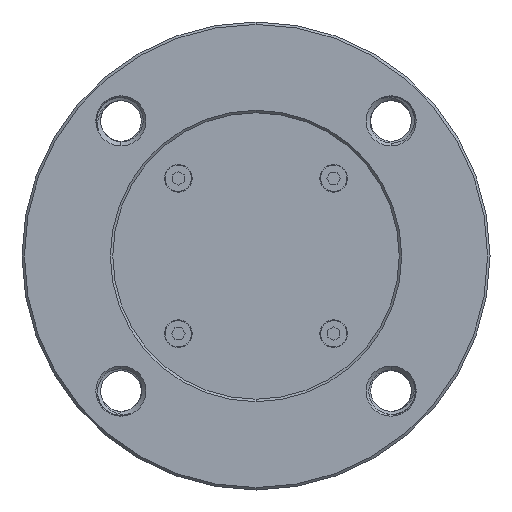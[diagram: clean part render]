
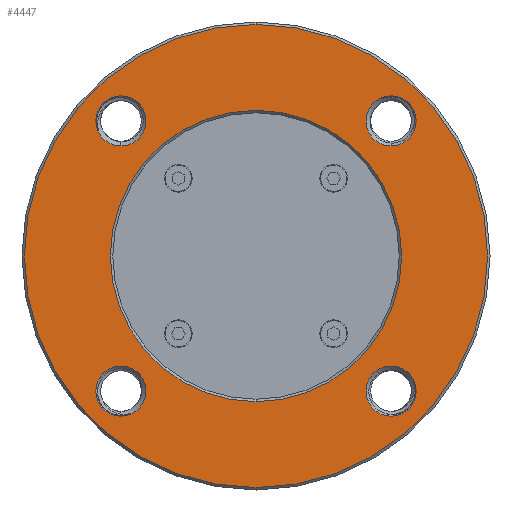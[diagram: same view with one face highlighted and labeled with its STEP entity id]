
A CAD part, front view. The second image highlights one B-rep face of the part: STEP entity #4447.
In plain terms, the highlighted planar face has unit normal (0, -1, 0).
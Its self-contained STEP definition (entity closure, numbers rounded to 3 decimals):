
#73 = ORIENTED_EDGE ( 'NONE', *, *, #14101, .T. ) ;
#188 = DIRECTION ( 'NONE',  ( 0., 0., -1. ) ) ;
#210 = DIRECTION ( 'NONE',  ( 0., 0., -1. ) ) ;
#377 = CARTESIAN_POINT ( 'NONE',  ( -28.284, -32.5, 33.534 ) ) ;
#543 = VERTEX_POINT ( 'NONE', #13524 ) ;
#654 = EDGE_CURVE ( 'NONE', #8398, #19177, #7322, .T. ) ;
#1477 = EDGE_CURVE ( 'NONE', #25645, #14300, #5723, .T. ) ;
#2263 = CARTESIAN_POINT ( 'NONE',  ( 0., -32.5, -48.5 ) ) ;
#2599 = CARTESIAN_POINT ( 'NONE',  ( 28.284, -32.5, 28.284 ) ) ;
#2646 = DIRECTION ( 'NONE',  ( 0., 0., -1. ) ) ;
#2829 = CARTESIAN_POINT ( 'NONE',  ( 0., -32.5, 0. ) ) ;
#3161 = CARTESIAN_POINT ( 'NONE',  ( 0., -32.5, 0. ) ) ;
#3213 = AXIS2_PLACEMENT_3D ( 'NONE', #19498, #17171, #10626 ) ;
#3522 = DIRECTION ( 'NONE',  ( 0., 1., 0. ) ) ;
#3741 = DIRECTION ( 'NONE',  ( 0., 1., 0. ) ) ;
#4319 = AXIS2_PLACEMENT_3D ( 'NONE', #2829, #20132, #210 ) ;
#4329 = DIRECTION ( 'NONE',  ( 0., 1., 0. ) ) ;
#4338 = CARTESIAN_POINT ( 'NONE',  ( 0., -32.5, 0. ) ) ;
#4397 = CIRCLE ( 'NONE', #20641, 5.25 ) ;
#4416 = AXIS2_PLACEMENT_3D ( 'NONE', #8313, #3522, #26192 ) ;
#4447 = ADVANCED_FACE ( 'NONE', ( #21533, #10479, #26464, #26175, #11051, #28648 ), #26600, .T. ) ;
#4558 = AXIS2_PLACEMENT_3D ( 'NONE', #3161, #3741, #10271 ) ;
#4732 = VERTEX_POINT ( 'NONE', #13930 ) ;
#4906 = CIRCLE ( 'NONE', #24884, 5.25 ) ;
#4934 = EDGE_CURVE ( 'NONE', #19177, #8398, #18264, .T. ) ;
#5486 = CARTESIAN_POINT ( 'NONE',  ( -28.284, -32.5, 28.284 ) ) ;
#5723 = CIRCLE ( 'NONE', #18266, 5.25 ) ;
#6225 = CARTESIAN_POINT ( 'NONE',  ( 0., -32.5, 30.5 ) ) ;
#6237 = DIRECTION ( 'NONE',  ( 0., 0., -1. ) ) ;
#6350 = ORIENTED_EDGE ( 'NONE', *, *, #7016, .T. ) ;
#6731 = CARTESIAN_POINT ( 'NONE',  ( 28.284, -32.5, -28.284 ) ) ;
#7016 = EDGE_CURVE ( 'NONE', #24643, #8583, #21997, .T. ) ;
#7084 = EDGE_LOOP ( 'NONE', ( #22391, #22549 ) ) ;
#7145 = ORIENTED_EDGE ( 'NONE', *, *, #9497, .T. ) ;
#7322 = CIRCLE ( 'NONE', #4558, 30.5 ) ;
#7458 = AXIS2_PLACEMENT_3D ( 'NONE', #22210, #20015, #13047 ) ;
#7971 = VERTEX_POINT ( 'NONE', #14221 ) ;
#8313 = CARTESIAN_POINT ( 'NONE',  ( 28.284, -32.5, 28.284 ) ) ;
#8398 = VERTEX_POINT ( 'NONE', #12591 ) ;
#8583 = VERTEX_POINT ( 'NONE', #11548 ) ;
#8606 = CIRCLE ( 'NONE', #24401, 5.25 ) ;
#9092 = CARTESIAN_POINT ( 'NONE',  ( -28.284, -32.5, -28.284 ) ) ;
#9313 = EDGE_LOOP ( 'NONE', ( #21772, #26952 ) ) ;
#9497 = EDGE_CURVE ( 'NONE', #21309, #4732, #4397, .T. ) ;
#9887 = EDGE_CURVE ( 'NONE', #19911, #21493, #11829, .T. ) ;
#10271 = DIRECTION ( 'NONE',  ( 0., 0., -1. ) ) ;
#10427 = AXIS2_PLACEMENT_3D ( 'NONE', #2599, #24420, #17871 ) ;
#10479 = FACE_BOUND ( 'NONE', #9313, .T. ) ;
#10626 = DIRECTION ( 'NONE',  ( 0., 0., -1. ) ) ;
#11051 = FACE_OUTER_BOUND ( 'NONE', #16828, .T. ) ;
#11363 = CIRCLE ( 'NONE', #10427, 5.25 ) ;
#11548 = CARTESIAN_POINT ( 'NONE',  ( 0., -32.5, 48.5 ) ) ;
#11829 = CIRCLE ( 'NONE', #4416, 5.25 ) ;
#12591 = CARTESIAN_POINT ( 'NONE',  ( 0., -32.5, -30.5 ) ) ;
#13047 = DIRECTION ( 'NONE',  ( 0., 0., -1. ) ) ;
#13335 = CARTESIAN_POINT ( 'NONE',  ( -28.284, -32.5, -28.284 ) ) ;
#13415 = CARTESIAN_POINT ( 'NONE',  ( 28.284, -32.5, -23.034 ) ) ;
#13524 = CARTESIAN_POINT ( 'NONE',  ( -28.284, -32.5, -33.534 ) ) ;
#13731 = DIRECTION ( 'NONE',  ( 0., 1., 0. ) ) ;
#13755 = AXIS2_PLACEMENT_3D ( 'NONE', #17666, #28712, #24640 ) ;
#13845 = CARTESIAN_POINT ( 'NONE',  ( 28.284, -32.5, 33.534 ) ) ;
#13930 = CARTESIAN_POINT ( 'NONE',  ( 28.284, -32.5, -33.534 ) ) ;
#14056 = AXIS2_PLACEMENT_3D ( 'NONE', #4338, #24412, #6237 ) ;
#14101 = EDGE_CURVE ( 'NONE', #4732, #21309, #24195, .T. ) ;
#14221 = CARTESIAN_POINT ( 'NONE',  ( -28.284, -32.5, -23.034 ) ) ;
#14300 = VERTEX_POINT ( 'NONE', #377 ) ;
#15390 = EDGE_LOOP ( 'NONE', ( #73, #7145 ) ) ;
#15514 = CIRCLE ( 'NONE', #22939, 5.25 ) ;
#15625 = CIRCLE ( 'NONE', #13755, 48.5 ) ;
#15922 = DIRECTION ( 'NONE',  ( 0., 0., -1. ) ) ;
#16719 = EDGE_CURVE ( 'NONE', #543, #7971, #4906, .T. ) ;
#16828 = EDGE_LOOP ( 'NONE', ( #19619, #6350 ) ) ;
#17171 = DIRECTION ( 'NONE',  ( 0., -1., 0. ) ) ;
#17266 = ORIENTED_EDGE ( 'NONE', *, *, #1477, .T. ) ;
#17666 = CARTESIAN_POINT ( 'NONE',  ( 0., -32.5, 0. ) ) ;
#17849 = DIRECTION ( 'NONE',  ( 0., 0., -1. ) ) ;
#17871 = DIRECTION ( 'NONE',  ( 0., 0., -1. ) ) ;
#18199 = DIRECTION ( 'NONE',  ( 0., 1., 0. ) ) ;
#18264 = CIRCLE ( 'NONE', #4319, 30.5 ) ;
#18266 = AXIS2_PLACEMENT_3D ( 'NONE', #20087, #18199, #2646 ) ;
#18685 = EDGE_CURVE ( 'NONE', #8583, #24643, #15625, .T. ) ;
#18876 = DIRECTION ( 'NONE',  ( 0., 0., -1. ) ) ;
#19177 = VERTEX_POINT ( 'NONE', #6225 ) ;
#19498 = CARTESIAN_POINT ( 'NONE',  ( -30., -32.5, 0. ) ) ;
#19619 = ORIENTED_EDGE ( 'NONE', *, *, #18685, .T. ) ;
#19911 = VERTEX_POINT ( 'NONE', #23662 ) ;
#20015 = DIRECTION ( 'NONE',  ( 0., 1., 0. ) ) ;
#20087 = CARTESIAN_POINT ( 'NONE',  ( -28.284, -32.5, 28.284 ) ) ;
#20132 = DIRECTION ( 'NONE',  ( 0., 1., 0. ) ) ;
#20641 = AXIS2_PLACEMENT_3D ( 'NONE', #6731, #27077, #188 ) ;
#21309 = VERTEX_POINT ( 'NONE', #13415 ) ;
#21493 = VERTEX_POINT ( 'NONE', #13845 ) ;
#21533 = FACE_BOUND ( 'NONE', #22099, .T. ) ;
#21772 = ORIENTED_EDGE ( 'NONE', *, *, #9887, .T. ) ;
#21997 = CIRCLE ( 'NONE', #14056, 48.5 ) ;
#22099 = EDGE_LOOP ( 'NONE', ( #17266, #25450 ) ) ;
#22210 = CARTESIAN_POINT ( 'NONE',  ( 28.284, -32.5, -28.284 ) ) ;
#22391 = ORIENTED_EDGE ( 'NONE', *, *, #16719, .T. ) ;
#22549 = ORIENTED_EDGE ( 'NONE', *, *, #24171, .T. ) ;
#22877 = ORIENTED_EDGE ( 'NONE', *, *, #654, .T. ) ;
#22939 = AXIS2_PLACEMENT_3D ( 'NONE', #13335, #4329, #17849 ) ;
#23048 = CARTESIAN_POINT ( 'NONE',  ( -28.284, -32.5, 23.034 ) ) ;
#23662 = CARTESIAN_POINT ( 'NONE',  ( 28.284, -32.5, 23.034 ) ) ;
#23990 = ORIENTED_EDGE ( 'NONE', *, *, #4934, .T. ) ;
#24171 = EDGE_CURVE ( 'NONE', #7971, #543, #15514, .T. ) ;
#24195 = CIRCLE ( 'NONE', #7458, 5.25 ) ;
#24401 = AXIS2_PLACEMENT_3D ( 'NONE', #5486, #27308, #18876 ) ;
#24412 = DIRECTION ( 'NONE',  ( 0., -1., 0. ) ) ;
#24420 = DIRECTION ( 'NONE',  ( 0., 1., 0. ) ) ;
#24640 = DIRECTION ( 'NONE',  ( 0., 0., -1. ) ) ;
#24643 = VERTEX_POINT ( 'NONE', #2263 ) ;
#24884 = AXIS2_PLACEMENT_3D ( 'NONE', #9092, #13731, #15922 ) ;
#25450 = ORIENTED_EDGE ( 'NONE', *, *, #28723, .T. ) ;
#25645 = VERTEX_POINT ( 'NONE', #23048 ) ;
#26175 = FACE_BOUND ( 'NONE', #7084, .T. ) ;
#26192 = DIRECTION ( 'NONE',  ( 0., 0., -1. ) ) ;
#26464 = FACE_BOUND ( 'NONE', #15390, .T. ) ;
#26600 = PLANE ( 'NONE',  #3213 ) ;
#26686 = EDGE_CURVE ( 'NONE', #21493, #19911, #11363, .T. ) ;
#26925 = EDGE_LOOP ( 'NONE', ( #22877, #23990 ) ) ;
#26952 = ORIENTED_EDGE ( 'NONE', *, *, #26686, .T. ) ;
#27077 = DIRECTION ( 'NONE',  ( 0., 1., 0. ) ) ;
#27308 = DIRECTION ( 'NONE',  ( 0., 1., 0. ) ) ;
#28648 = FACE_BOUND ( 'NONE', #26925, .T. ) ;
#28712 = DIRECTION ( 'NONE',  ( 0., -1., 0. ) ) ;
#28723 = EDGE_CURVE ( 'NONE', #14300, #25645, #8606, .T. ) ;
